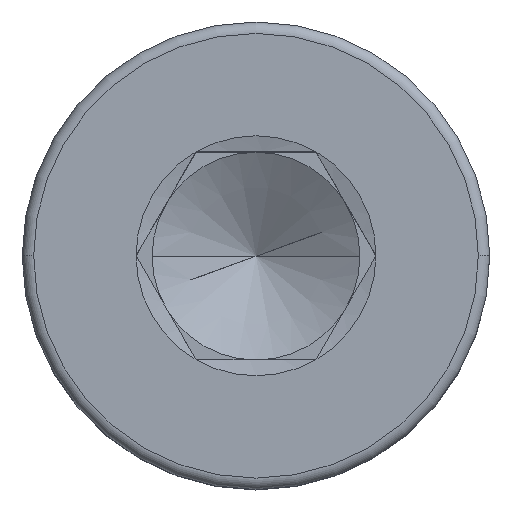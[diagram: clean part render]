
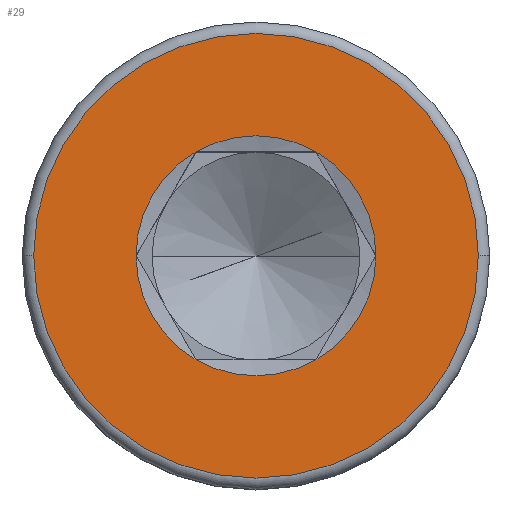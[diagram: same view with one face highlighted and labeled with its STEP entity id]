
A CAD part, top view. The second image highlights one B-rep face of the part: STEP entity #29.
In plain terms, the highlighted planar face has unit normal (0, 0, 1).
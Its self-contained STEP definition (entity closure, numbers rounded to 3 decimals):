
#9 = CARTESIAN_POINT ( 'NONE',  ( -2.14, 0., 2.5 ) ) ;
#24 = CIRCLE ( 'NONE', #635, 1.155 ) ;
#29 = ADVANCED_FACE ( 'NONE', ( #42, #899 ), #748, .T. ) ;
#42 = FACE_OUTER_BOUND ( 'NONE', #554, .T. ) ;
#47 = ORIENTED_EDGE ( 'NONE', *, *, #1292, .F. ) ;
#52 = CARTESIAN_POINT ( 'NONE',  ( 0., 0., 2.5 ) ) ;
#85 = DIRECTION ( 'NONE',  ( 1., 0., 0. ) ) ;
#87 = CARTESIAN_POINT ( 'NONE',  ( 0., 0., 2.5 ) ) ;
#103 = EDGE_CURVE ( 'NONE', #311, #1434, #680, .T. ) ;
#122 = AXIS2_PLACEMENT_3D ( 'NONE', #443, #1164, #205 ) ;
#124 = EDGE_CURVE ( 'NONE', #805, #1103, #891, .T. ) ;
#179 = CARTESIAN_POINT ( 'NONE',  ( 0., 0., 2.5 ) ) ;
#205 = DIRECTION ( 'NONE',  ( 1., 0., 0. ) ) ;
#217 = EDGE_CURVE ( 'NONE', #801, #728, #1386, .T. ) ;
#274 = DIRECTION ( 'NONE',  ( 0., 0., 1. ) ) ;
#311 = VERTEX_POINT ( 'NONE', #710 ) ;
#367 = CIRCLE ( 'NONE', #781, 1.155 ) ;
#380 = CARTESIAN_POINT ( 'NONE',  ( 2.14, 0., 2.5 ) ) ;
#426 = DIRECTION ( 'NONE',  ( 0., 0., 1. ) ) ;
#430 = DIRECTION ( 'NONE',  ( 0., 0., 1. ) ) ;
#443 = CARTESIAN_POINT ( 'NONE',  ( 0., 0., 2.5 ) ) ;
#445 = DIRECTION ( 'NONE',  ( 0., 0., 1. ) ) ;
#447 = AXIS2_PLACEMENT_3D ( 'NONE', #179, #529, #495 ) ;
#466 = ORIENTED_EDGE ( 'NONE', *, *, #217, .F. ) ;
#476 = CIRCLE ( 'NONE', #1416, 1.155 ) ;
#495 = DIRECTION ( 'NONE',  ( 1., 0., 0. ) ) ;
#502 = AXIS2_PLACEMENT_3D ( 'NONE', #1572, #1471, #1352 ) ;
#529 = DIRECTION ( 'NONE',  ( 0., 0., 1. ) ) ;
#546 = CARTESIAN_POINT ( 'NONE',  ( 0., 0., 2.5 ) ) ;
#554 = EDGE_LOOP ( 'NONE', ( #833, #739 ) ) ;
#635 = AXIS2_PLACEMENT_3D ( 'NONE', #546, #445, #941 ) ;
#636 = CIRCLE ( 'NONE', #1542, 1.155 ) ;
#644 = DIRECTION ( 'NONE',  ( 0., 0., 1. ) ) ;
#680 = CIRCLE ( 'NONE', #1535, 1.155 ) ;
#689 = EDGE_CURVE ( 'NONE', #1244, #801, #476, .T. ) ;
#695 = CARTESIAN_POINT ( 'NONE',  ( 0.577, -1., 2.5 ) ) ;
#700 = CARTESIAN_POINT ( 'NONE',  ( 0.577, 1., 2.5 ) ) ;
#710 = CARTESIAN_POINT ( 'NONE',  ( -0.577, 1., 2.5 ) ) ;
#728 = VERTEX_POINT ( 'NONE', #700 ) ;
#739 = ORIENTED_EDGE ( 'NONE', *, *, #124, .T. ) ;
#748 = PLANE ( 'NONE',  #447 ) ;
#766 = DIRECTION ( 'NONE',  ( 1., 0., 0. ) ) ;
#781 = AXIS2_PLACEMENT_3D ( 'NONE', #1541, #430, #1300 ) ;
#796 = DIRECTION ( 'NONE',  ( 1., 0., 0. ) ) ;
#801 = VERTEX_POINT ( 'NONE', #875 ) ;
#805 = VERTEX_POINT ( 'NONE', #9 ) ;
#833 = ORIENTED_EDGE ( 'NONE', *, *, #927, .T. ) ;
#871 = EDGE_CURVE ( 'NONE', #728, #311, #24, .T. ) ;
#875 = CARTESIAN_POINT ( 'NONE',  ( 1.155, 0., 2.5 ) ) ;
#889 = CARTESIAN_POINT ( 'NONE',  ( 0., 0., 2.5 ) ) ;
#891 = CIRCLE ( 'NONE', #122, 2.14 ) ;
#899 = FACE_BOUND ( 'NONE', #1515, .T. ) ;
#924 = DIRECTION ( 'NONE',  ( 1., 0., 0. ) ) ;
#927 = EDGE_CURVE ( 'NONE', #1103, #805, #1263, .T. ) ;
#941 = DIRECTION ( 'NONE',  ( 1., 0., 0. ) ) ;
#956 = ORIENTED_EDGE ( 'NONE', *, *, #689, .F. ) ;
#1000 = CARTESIAN_POINT ( 'NONE',  ( -1.155, 0., 2.5 ) ) ;
#1069 = DIRECTION ( 'NONE',  ( 0., 0., 1. ) ) ;
#1103 = VERTEX_POINT ( 'NONE', #380 ) ;
#1138 = VERTEX_POINT ( 'NONE', #1521 ) ;
#1164 = DIRECTION ( 'NONE',  ( 0., 0., 1. ) ) ;
#1169 = ORIENTED_EDGE ( 'NONE', *, *, #871, .F. ) ;
#1185 = CARTESIAN_POINT ( 'NONE',  ( 0., 0., 2.5 ) ) ;
#1244 = VERTEX_POINT ( 'NONE', #695 ) ;
#1263 = CIRCLE ( 'NONE', #502, 2.14 ) ;
#1292 = EDGE_CURVE ( 'NONE', #1138, #1244, #636, .T. ) ;
#1300 = DIRECTION ( 'NONE',  ( 1., 0., 0. ) ) ;
#1325 = EDGE_CURVE ( 'NONE', #1434, #1138, #367, .T. ) ;
#1352 = DIRECTION ( 'NONE',  ( 1., 0., 0. ) ) ;
#1386 = CIRCLE ( 'NONE', #1437, 1.155 ) ;
#1416 = AXIS2_PLACEMENT_3D ( 'NONE', #889, #274, #766 ) ;
#1434 = VERTEX_POINT ( 'NONE', #1000 ) ;
#1437 = AXIS2_PLACEMENT_3D ( 'NONE', #87, #426, #924 ) ;
#1471 = DIRECTION ( 'NONE',  ( 0., 0., 1. ) ) ;
#1515 = EDGE_LOOP ( 'NONE', ( #466, #956, #47, #1552, #1575, #1169 ) ) ;
#1521 = CARTESIAN_POINT ( 'NONE',  ( -0.577, -1., 2.5 ) ) ;
#1535 = AXIS2_PLACEMENT_3D ( 'NONE', #52, #644, #796 ) ;
#1541 = CARTESIAN_POINT ( 'NONE',  ( 0., 0., 2.5 ) ) ;
#1542 = AXIS2_PLACEMENT_3D ( 'NONE', #1185, #1069, #85 ) ;
#1552 = ORIENTED_EDGE ( 'NONE', *, *, #1325, .F. ) ;
#1572 = CARTESIAN_POINT ( 'NONE',  ( 0., 0., 2.5 ) ) ;
#1575 = ORIENTED_EDGE ( 'NONE', *, *, #103, .F. ) ;
